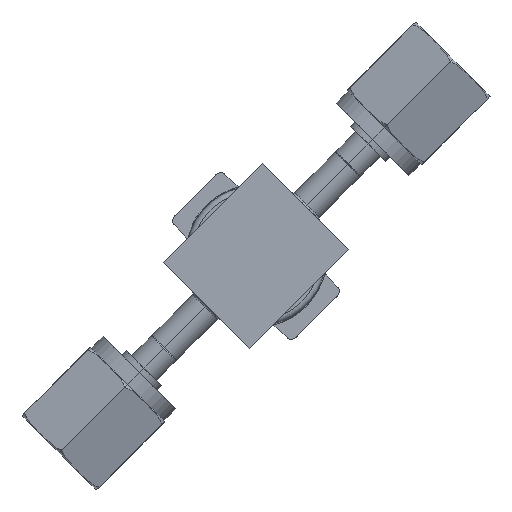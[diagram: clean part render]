
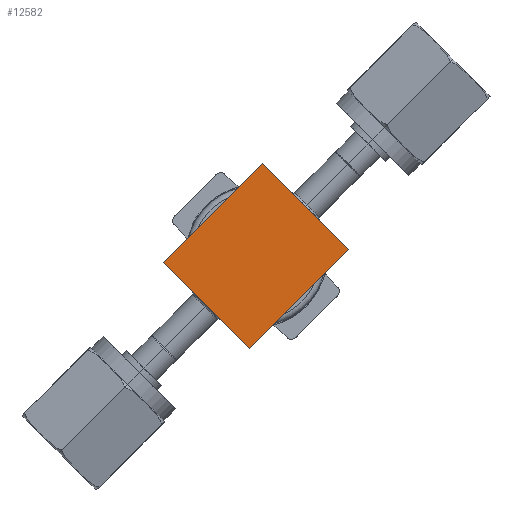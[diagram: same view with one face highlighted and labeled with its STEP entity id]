
A CAD part, front view. The second image highlights one B-rep face of the part: STEP entity #12582.
In plain terms, the highlighted planar face has unit normal (0, -1, 0) as drawn and (0, 0, -1) by its records, which use the part's own axes.
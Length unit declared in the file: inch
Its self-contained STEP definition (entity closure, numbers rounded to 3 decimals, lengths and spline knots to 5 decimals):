
#3165 = CARTESIAN_POINT ( 'NONE',  ( 0.5, -0.4375, 0. ) ) ;
#3256 = CARTESIAN_POINT ( 'NONE',  ( 0.5, 0.4375, 0. ) ) ;
#3502 = ORIENTED_EDGE ( 'NONE', *, *, #10332, .T. ) ;
#4070 = DIRECTION ( 'NONE',  ( 0., -1., 0. ) ) ;
#4126 = VECTOR ( 'NONE', #4144, 39.37008 ) ;
#4144 = DIRECTION ( 'NONE',  ( 1., 0., 0. ) ) ;
#5744 = DIRECTION ( 'NONE',  ( 0., 0., -1. ) ) ;
#6149 = DIRECTION ( 'NONE',  ( 0., 1., 0. ) ) ;
#6403 = EDGE_LOOP ( 'NONE', ( #9354, #11310, #6552, #3502 ) ) ;
#6552 = ORIENTED_EDGE ( 'NONE', *, *, #10248, .F. ) ;
#6978 = AXIS2_PLACEMENT_3D ( 'NONE', #7648, #5744, #9377 ) ;
#7050 = EDGE_CURVE ( 'NONE', #15546, #10753, #12836, .T. ) ;
#7648 = CARTESIAN_POINT ( 'NONE',  ( -0.5, -0.4375, 0. ) ) ;
#7837 = CARTESIAN_POINT ( 'NONE',  ( -0.5, -0.4375, 0. ) ) ;
#8207 = VERTEX_POINT ( 'NONE', #3256 ) ;
#8407 = CARTESIAN_POINT ( 'NONE',  ( -0.5, 0.4375, 0. ) ) ;
#8627 = DIRECTION ( 'NONE',  ( -1., 0., 0. ) ) ;
#8839 = VECTOR ( 'NONE', #8627, 39.37008 ) ;
#9354 = ORIENTED_EDGE ( 'NONE', *, *, #7050, .F. ) ;
#9377 = DIRECTION ( 'NONE',  ( -1., 0., 0. ) ) ;
#9776 = LINE ( 'NONE', #16140, #8839 ) ;
#9786 = VERTEX_POINT ( 'NONE', #3165 ) ;
#10248 = EDGE_CURVE ( 'NONE', #9786, #8207, #12293, .T. ) ;
#10332 = EDGE_CURVE ( 'NONE', #9786, #10753, #9776, .T. ) ;
#10388 = CARTESIAN_POINT ( 'NONE',  ( -0.5, 0.4375, 0. ) ) ;
#10753 = VERTEX_POINT ( 'NONE', #7837 ) ;
#10818 = VECTOR ( 'NONE', #4070, 39.37008 ) ;
#11310 = ORIENTED_EDGE ( 'NONE', *, *, #14915, .T. ) ;
#12153 = VECTOR ( 'NONE', #6149, 39.37008 ) ;
#12293 = LINE ( 'NONE', #14829, #12153 ) ;
#12582 = ADVANCED_FACE ( 'NONE', ( #15094 ), #13869, .T. ) ;
#12836 = LINE ( 'NONE', #8407, #10818 ) ;
#12993 = LINE ( 'NONE', #10388, #4126 ) ;
#13869 = PLANE ( 'NONE',  #6978 ) ;
#14829 = CARTESIAN_POINT ( 'NONE',  ( 0.5, -0.4375, 0. ) ) ;
#14915 = EDGE_CURVE ( 'NONE', #15546, #8207, #12993, .T. ) ;
#15094 = FACE_OUTER_BOUND ( 'NONE', #6403, .T. ) ;
#15546 = VERTEX_POINT ( 'NONE', #15856 ) ;
#15856 = CARTESIAN_POINT ( 'NONE',  ( -0.5, 0.4375, 0. ) ) ;
#16140 = CARTESIAN_POINT ( 'NONE',  ( 0.5, -0.4375, 0. ) ) ;
